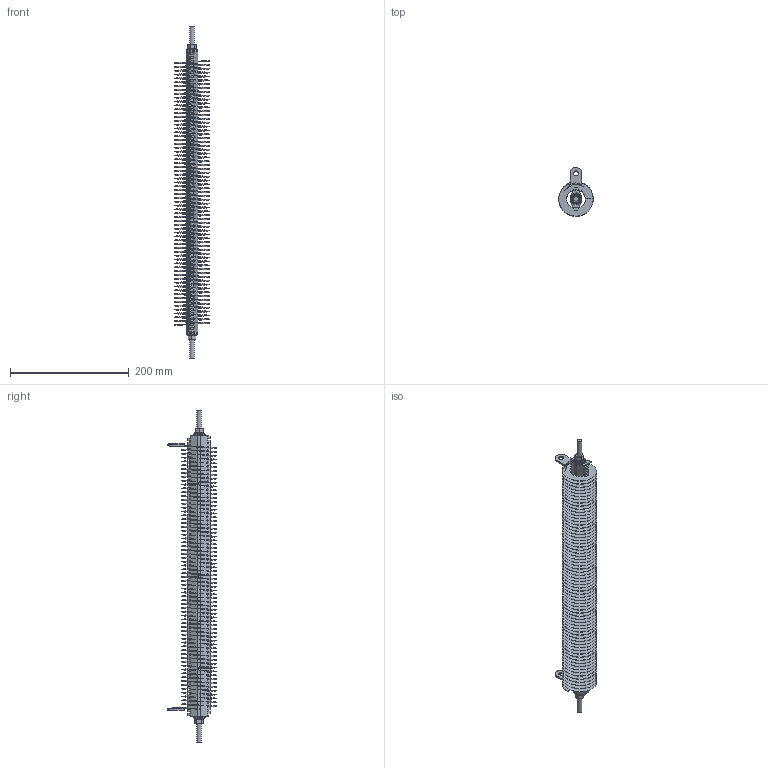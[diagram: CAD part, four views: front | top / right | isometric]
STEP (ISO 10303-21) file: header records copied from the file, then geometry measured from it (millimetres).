
FILE_DESCRIPTION(/* description */ (''),/* implementation_level */ '2;1');
FILE_NAME(/* name */ 'C:\_Vault\Dati\CATALOGO\RNT\RNT Catalogo\RNT 6.stp',/* time_stamp */ '2023-05-16T14:52:58+02:00',/* author */ ('claudio'),/* organization */ ('Fairfild Srl'),/* preprocessor_version */ 'ST-DEVELOPER v18.1',/* originating_system */ 'Autodesk Inventor 2022',/* authorisation */ '');
FILE_SCHEMA (('AUTOMOTIVE_DESIGN { 1 0 10303 214 3 1 1 }'));
Length unit declared in the file: millimetre
Products named in the file (10): RNT 6; 06M008000FZ7500000; 141000G0112M7001CH; RANELLA  ISOL. UNI SF 1630 201x10x0,50; 141000G0112M700001; 58008100208M500200; 600008000FZ9200030; 600008000FZ5100032; 28M008000FZ8800000; RNT 6_1
Assembly tree (21 placements, depth 2):
  RNT 6
    06M008000FZ7500000
    141000G0112M7001CH  x2
    58008100208M500200  x2
    600008000FZ9200030  x2
    600008000FZ5100032  x2
    28M008000FZ8800000  x2
    RANELLA  ISOL. UNI SF 1630 201x10x0,50  x5
    141000G0112M700001  x4
    RNT 6_1
Bounding box: 58 x 81.95 x 560 mm (x, y, z)
Volume: 299702.7 mm3; surface area: 354027.6 mm2
Topology: 21 solids, 21 shells, 995 faces, 2890 edges, 1916 vertices
Faces by surface type: cylinder 488, bspline 302, plane 177, cone 28
Full cylindrical faces by diameter (mm): 6.647 x2, 8 x1, 8.4 x2, 8.5 x4, 9 x6, 10 x5, 17 x2, 20 x2, 32 x68, 58 x68
Entity records: 30309 total; most frequent: CARTESIAN_POINT 19478, ORIENTED_EDGE 2600, DIRECTION 1405, EDGE_CURVE 1300, VERTEX_POINT 863, B_SPLINE_CURVE_WITH_KNOTS 703, LINE 485, VECTOR 485
